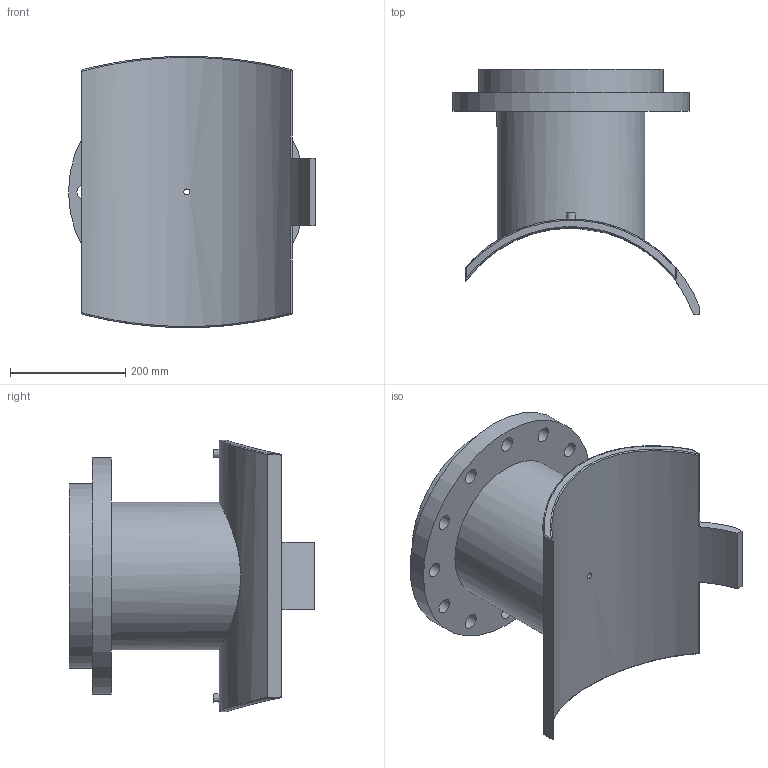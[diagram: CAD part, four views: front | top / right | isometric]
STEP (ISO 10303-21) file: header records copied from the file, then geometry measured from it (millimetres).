
FILE_DESCRIPTION(/* description */ ('PLASSON FLANGED BRANCH SADDLE 450X250'),/* implementation_level */ '2;1');
FILE_NAME(/* name */ 'C:\Dropbox\KIMPROJECTS-Inventor 2019\99-16-3568-Processing\ElectroFusion Fittings\495904_495903\stp\495903450250T.stp',/* time_stamp */ '2024-04-03T21:03:42+02:00',/* author */ ('KIM'),/* organization */ (''),/* preprocessor_version */ 'ST-DEVELOPER v17.2',/* originating_system */ 'Autodesk Inventor 2019',/* authorisation */ '');
FILE_SCHEMA (('AUTOMOTIVE_DESIGN { 1 0 10303 214 3 1 1 }'));
Length unit declared in the file: millimetre
Products named in the file (1): 495903450250T
Bounding box: 427.75 x 425.66 x 469.92 mm (x, y, z)
Volume: 11765504.9 mm3; surface area: 1047701.1 mm2
Topology: 1 solids, 1 shells, 62 faces, 163 edges, 126 vertices
Faces by surface type: cylinder 35, plane 17, sphere 4, bspline 4, cone 2
Full cylindrical faces by diameter (mm): 4 x2, 10 x2, 10.4 x1, 16 x1, 26 x12, 204 x1, 256 x1, 320 x1, 410 x1
Entity records: 2586 total; most frequent: CARTESIAN_POINT 958, DIRECTION 325, ORIENTED_EDGE 298, EDGE_CURVE 149, AXIS2_PLACEMENT_3D 137, VERTEX_POINT 100, EDGE_LOOP 99, CIRCLE 78
